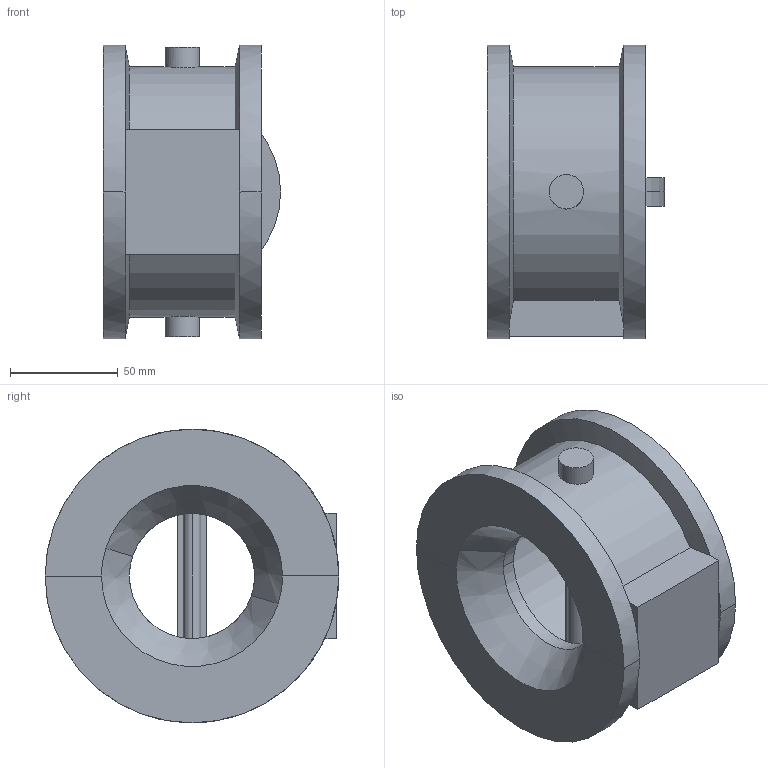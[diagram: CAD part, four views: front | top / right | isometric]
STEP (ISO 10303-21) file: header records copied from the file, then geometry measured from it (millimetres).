
FILE_DESCRIPTION (( 'STEP AP203' ), '1' );
FILE_NAME ('Viega_MegaPress FKM_Wafer Check Valve_5974XL - 3in.STEP', '2025-02-20T00:05:13', ( '' ), ( '' ), 'SwSTEP 2.0', 'SolidWorks 2020', '' );
FILE_SCHEMA (( 'CONFIG_CONTROL_DESIGN' ));
Length unit declared in the file: millimetre
Products named in the file (1): Viega_MegaPress FKM_Wafer Check Valve_5974XL - 3in
Bounding box: 82 x 136 x 136 mm (x, y, z)
Volume: 519837.7 mm3; surface area: 96631.1 mm2
Topology: 4 solids, 4 shells, 48 faces, 102 edges, 62 vertices
Faces by surface type: plane 23, cylinder 19, cone 6
Entity records: 1641 total; most frequent: CARTESIAN_POINT 515, DIRECTION 238, ORIENTED_EDGE 204, EDGE_CURVE 102, AXIS2_PLACEMENT_3D 97, VERTEX_POINT 62, EDGE_LOOP 50, FACE_OUTER_BOUND 48
